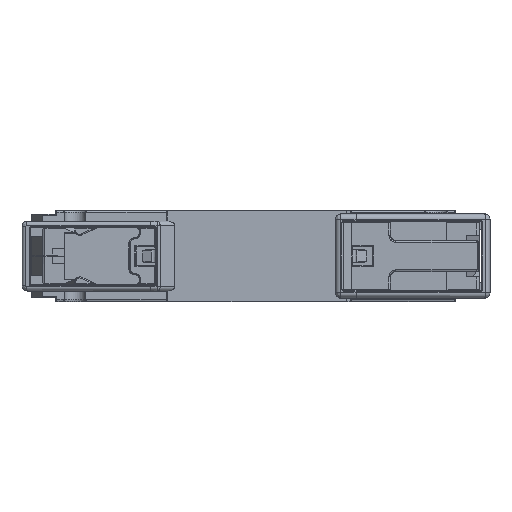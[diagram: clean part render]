
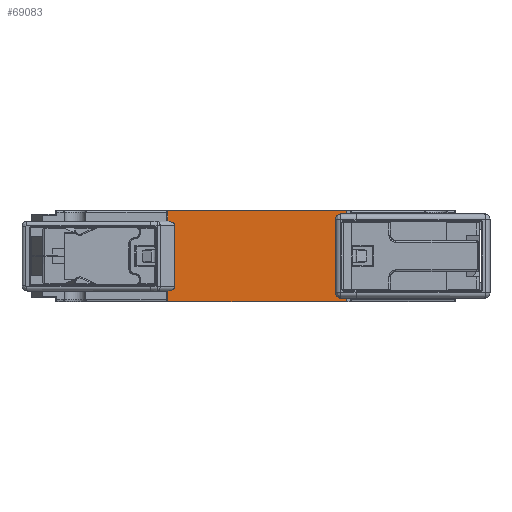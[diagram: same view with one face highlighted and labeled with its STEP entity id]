
A CAD part, front view. The second image highlights one B-rep face of the part: STEP entity #69083.
In plain terms, the highlighted planar face has unit normal (0, -1, 0).
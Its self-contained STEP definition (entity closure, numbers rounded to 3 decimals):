
#778 = EDGE_CURVE ( 'NONE', #62433, #62412, #3372, .T. ) ;
#781 = EDGE_CURVE ( 'NONE', #62412, #62410, #3401, .T. ) ;
#784 = EDGE_CURVE ( 'NONE', #62415, #62597, #3420, .T. ) ;
#785 = EDGE_CURVE ( 'NONE', #62599, #62960, #3425, .T. ) ;
#786 = EDGE_CURVE ( 'NONE', #62967, #62566, #3416, .T. ) ;
#790 = EDGE_CURVE ( 'NONE', #62566, #62433, #3451, .T. ) ;
#1662 = EDGE_LOOP ( 'NONE', ( #36578, #36579, #36580, #36581, #36583, #36585, #36587, #36589, #36590, #36592 ) ) ;
#3372 = LINE ( 'NONE', #3387, #90166 ) ;
#3387 = CARTESIAN_POINT ( 'NONE',  ( 60.556, -0.075, 7.308 ) ) ;
#3389 = DIRECTION ( 'NONE',  ( 0., 0., -1. ) ) ;
#3401 = LINE ( 'NONE', #3405, #90164 ) ;
#3405 = CARTESIAN_POINT ( 'NONE',  ( 60.556, -0.075, 6.701 ) ) ;
#3407 = DIRECTION ( 'NONE',  ( -0.001, 0., -1. ) ) ;
#3416 = LINE ( 'NONE', #3431, #90156 ) ;
#3420 = LINE ( 'NONE', #3422, #90158 ) ;
#3422 = CARTESIAN_POINT ( 'NONE',  ( 25.945, -0.075, 7.308 ) ) ;
#3424 = DIRECTION ( 'NONE',  ( 0., 0., 1. ) ) ;
#3425 = LINE ( 'NONE', #3427, #90155 ) ;
#3427 = CARTESIAN_POINT ( 'NONE',  ( 25.651, -0.075, 7.308 ) ) ;
#3429 = DIRECTION ( 'NONE',  ( 0., 0., 1. ) ) ;
#3431 = CARTESIAN_POINT ( 'NONE',  ( 26.052, -0.075, 6.701 ) ) ;
#3434 = DIRECTION ( 'NONE',  ( 0., 0., 1. ) ) ;
#3451 = LINE ( 'NONE', #3453, #90148 ) ;
#3453 = CARTESIAN_POINT ( 'NONE',  ( 86.132, -0.075, 8.763 ) ) ;
#3454 = DIRECTION ( 'NONE',  ( 1., 0., 0. ) ) ;
#4475 = VECTOR ( 'NONE', #44870, 1000. ) ;
#5280 = VECTOR ( 'NONE', #70027, 1000. ) ;
#7005 = CARTESIAN_POINT ( 'NONE',  ( 25.651, -0.075, 6.701 ) ) ;
#7025 = CARTESIAN_POINT ( 'NONE',  ( 26.052, -0.075, 6.701 ) ) ;
#25164 = FACE_OUTER_BOUND ( 'NONE', #1662, .T. ) ;
#25221 = PLANE ( 'NONE',  #25798 ) ;
#25240 = CARTESIAN_POINT ( 'NONE',  ( 86.132, -0.075, 7.308 ) ) ;
#25242 = DIRECTION ( 'NONE',  ( 0., 1., 0. ) ) ;
#25244 = DIRECTION ( 'NONE',  ( 0., 0., 1. ) ) ;
#25798 = AXIS2_PLACEMENT_3D ( 'NONE', #25240, #25242, #25244 ) ;
#33102 = CARTESIAN_POINT ( 'NONE',  ( 64.057, -0.075, -8.763 ) ) ;
#33105 = LINE ( 'NONE', #33102, #33579 ) ;
#33106 = CARTESIAN_POINT ( 'NONE',  ( 26.043, -0.075, -8.462 ) ) ;
#33107 = DIRECTION ( 'NONE',  ( 0., 1., 0. ) ) ;
#33108 = DIRECTION ( 'NONE',  ( 0., 0., -1. ) ) ;
#33111 = DIRECTION ( 'NONE',  ( 1., 0., 0. ) ) ;
#33575 = CIRCLE ( 'NONE', #33576, 0.301 ) ;
#33576 = AXIS2_PLACEMENT_3D ( 'NONE', #33106, #33107, #33108 ) ;
#33579 = VECTOR ( 'NONE', #33111, 1000. ) ;
#36578 = ORIENTED_EDGE ( 'NONE', *, *, #786, .F. ) ;
#36579 = ORIENTED_EDGE ( 'NONE', *, *, #47671, .F. ) ;
#36580 = ORIENTED_EDGE ( 'NONE', *, *, #785, .F. ) ;
#36581 = ORIENTED_EDGE ( 'NONE', *, *, #47952, .F. ) ;
#36583 = ORIENTED_EDGE ( 'NONE', *, *, #784, .F. ) ;
#36585 = ORIENTED_EDGE ( 'NONE', *, *, #61454, .F. ) ;
#36587 = ORIENTED_EDGE ( 'NONE', *, *, #61457, .T. ) ;
#36589 = ORIENTED_EDGE ( 'NONE', *, *, #781, .F. ) ;
#36590 = ORIENTED_EDGE ( 'NONE', *, *, #778, .F. ) ;
#36592 = ORIENTED_EDGE ( 'NONE', *, *, #790, .F. ) ;
#44868 = LINE ( 'NONE', #44869, #4475 ) ;
#44869 = CARTESIAN_POINT ( 'NONE',  ( -2.032, -0.075, 6.701 ) ) ;
#44870 = DIRECTION ( 'NONE',  ( 1., 0., 0. ) ) ;
#47671 = EDGE_CURVE ( 'NONE', #62960, #62967, #44868, .T. ) ;
#47952 = EDGE_CURVE ( 'NONE', #62597, #62599, #70025, .T. ) ;
#61454 = EDGE_CURVE ( 'NONE', #62365, #62415, #33575, .T. ) ;
#61457 = EDGE_CURVE ( 'NONE', #62365, #62410, #33105, .T. ) ;
#62365 = VERTEX_POINT ( 'NONE', #79843 ) ;
#62410 = VERTEX_POINT ( 'NONE', #79940 ) ;
#62412 = VERTEX_POINT ( 'NONE', #79942 ) ;
#62415 = VERTEX_POINT ( 'NONE', #79953 ) ;
#62433 = VERTEX_POINT ( 'NONE', #79987 ) ;
#62566 = VERTEX_POINT ( 'NONE', #80247 ) ;
#62597 = VERTEX_POINT ( 'NONE', #80308 ) ;
#62599 = VERTEX_POINT ( 'NONE', #80309 ) ;
#62960 = VERTEX_POINT ( 'NONE', #7005 ) ;
#62967 = VERTEX_POINT ( 'NONE', #7025 ) ;
#69083 = ADVANCED_FACE ( 'NONE', ( #25164 ), #25221, .F. ) ;
#70025 = LINE ( 'NONE', #70026, #5280 ) ;
#70026 = CARTESIAN_POINT ( 'NONE',  ( 25.651, -0.075, -6.728 ) ) ;
#70027 = DIRECTION ( 'NONE',  ( -1., 0., 0. ) ) ;
#79843 = CARTESIAN_POINT ( 'NONE',  ( 26.043, -0.075, -8.763 ) ) ;
#79940 = CARTESIAN_POINT ( 'NONE',  ( 60.545, -0.075, -8.763 ) ) ;
#79942 = CARTESIAN_POINT ( 'NONE',  ( 60.556, -0.075, 6.701 ) ) ;
#79953 = CARTESIAN_POINT ( 'NONE',  ( 25.945, -0.075, -8.747 ) ) ;
#79987 = CARTESIAN_POINT ( 'NONE',  ( 60.556, -0.075, 8.763 ) ) ;
#80247 = CARTESIAN_POINT ( 'NONE',  ( 26.052, -0.075, 8.763 ) ) ;
#80308 = CARTESIAN_POINT ( 'NONE',  ( 25.945, -0.075, -6.728 ) ) ;
#80309 = CARTESIAN_POINT ( 'NONE',  ( 25.651, -0.075, -6.728 ) ) ;
#90148 = VECTOR ( 'NONE', #3454, 1000. ) ;
#90155 = VECTOR ( 'NONE', #3429, 1000. ) ;
#90156 = VECTOR ( 'NONE', #3434, 1000. ) ;
#90158 = VECTOR ( 'NONE', #3424, 1000. ) ;
#90164 = VECTOR ( 'NONE', #3407, 1000. ) ;
#90166 = VECTOR ( 'NONE', #3389, 1000. ) ;
